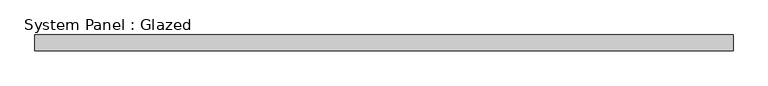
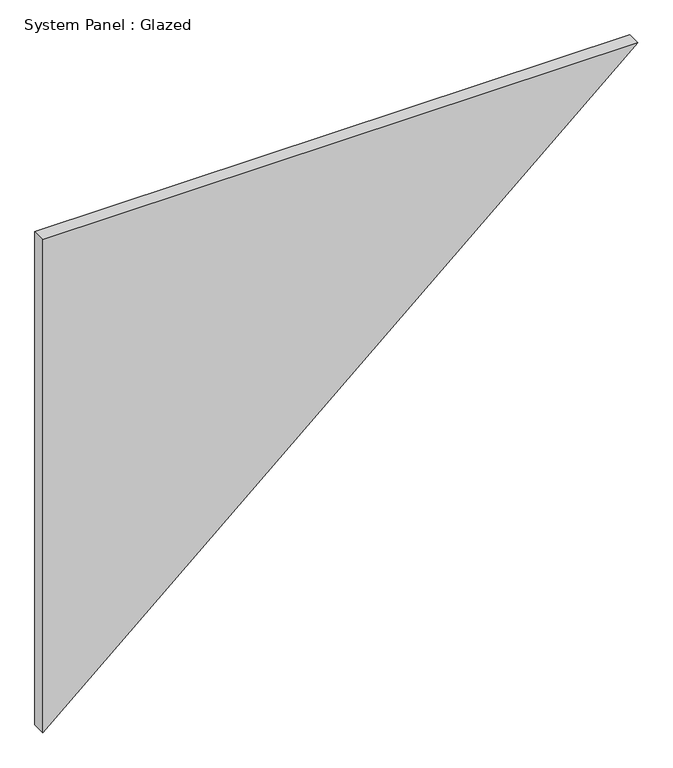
"""IFC4 building model written with IfcOpenShell, lengths in millimetres: plate geometry, System Panel : Glazed."""

from ifc_helpers import new_model, si_unit, frame, origin, place, context, project, spatial, polyline, outline, extrude, source, transform, mapped, element, save


def system_panel_glazed_7c350578(model_context):
    return source(origin(), model_context, "Body", "SweptSolid", [
        extrude(outline(polyline([(957.5645868, -546.0830117), (0.0, -546.0830117), (957.5645868, 546.0830117), (957.5645868, -546.0830117)])), frame((0.0, 24.5, 0.0), z_axis=(0.0, 1.0, 0.0), x_axis=(0.0, 0.0, 1.0)), (0.0, 0.0, 1.0), 25.0),
    ])


if __name__ == "__main__":
    model = new_model("IFC4")
    model_context = context("Model", 3, world=origin())
    ifc_project = project(units=[si_unit("LENGTHUNIT", "METRE", prefix="MILLI")], contexts=[model_context])
    site = spatial("IfcSite", under=ifc_project)
    building = spatial("IfcBuilding", under=site)
    placement = place(None, origin())
    system_panel_glazed_shape = system_panel_glazed_7c350578(model_context)
    element("IfcPlate", 1, ObjectType="System Panel : Glazed", at=placement, inside=building, context=model_context, shape_type="MappedRepresentation", body=[
        mapped(system_panel_glazed_shape, transform((0.0, 0.0, 0.0), x_axis=(1.0, 0.0, 0.0), y_axis=(0.0, 1.0, 0.0), z_axis=(0.0, 0.0, 1.0))),
    ])
    save(model, "model.ifc")
